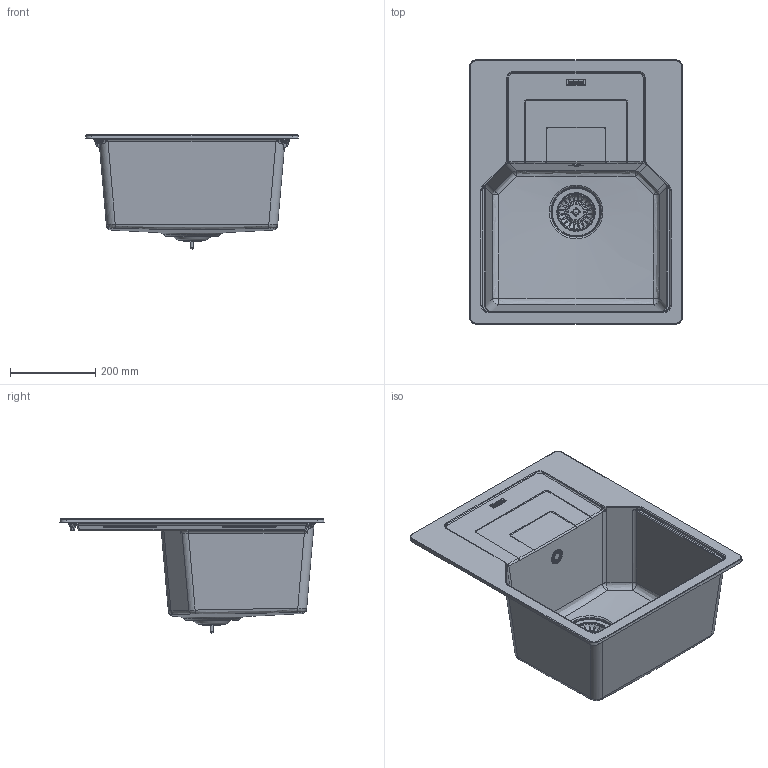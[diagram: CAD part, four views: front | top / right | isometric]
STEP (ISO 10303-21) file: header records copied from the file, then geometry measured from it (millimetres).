
FILE_DESCRIPTION(/* description */ (''),/* implementation_level */ '2;1');
FILE_NAME(/* name */ '3D001_Sinks_Urban_UBG-611-62',/* time_stamp */ '2024-03-27T11:20:26+01:00',/* author */ (''),/* organization */ (''),/* preprocessor_version */ 'ST-DEVELOPER v19.2',/* originating_system */ 'Rhino 8.4',/* authorisation */ '');
FILE_SCHEMA (('CONFIG_CONTROL_DESIGN'));
Length unit declared in the file: millimetre
Products named in the file (14): Document; 20202566_ipt_000; 20116141_IPT_000; 20118468_IAM_000; 20117565_IPT_00024; 20117567_IPT_00026; 20118466_IAM_000; 20117569_IPT_000; 20118465_IPT_000; Blocco 04; 20118464_IPT_000; 20117570_IPT_0002; 20116285_IPT_0004; 20117572_IPT_00020
Bounding box: 500 x 620 x 267.76 mm (x, y, z)
Volume: 22413 mm3; surface area: 1246040.3 mm2
Topology: 14 solids, 18 shells, 1840 faces, 4897 edges, 3043 vertices
Faces by surface type: bspline 760, plane 578, cylinder 502
Full cylindrical faces by diameter (mm): 4.7 x1, 4.85 x1, 5 x1, 5.2 x1, 5.25 x1, 6.2 x1, 8 x1, 8.25 x1, 12.6 x1, 13.743 x1, 14.3 x1, 17.853 x1, 25 x2, 28 x2, 30 x1, 33 x2, 35 x2, 36 x1, 36.5 x1, 47 x1, 84 x1, 88 x1, 112 x1
Entity records: 101918 total; most frequent: CARTESIAN_POINT 55229, ORIENTED_EDGE 9699, EDGE_CURVE 4858, DIRECTION 4614, VERTEX_POINT 3043, B_SPLINE_CURVE_WITH_KNOTS 2967, AXIS2_PLACEMENT_3D 2847, EDGE_LOOP 1934
